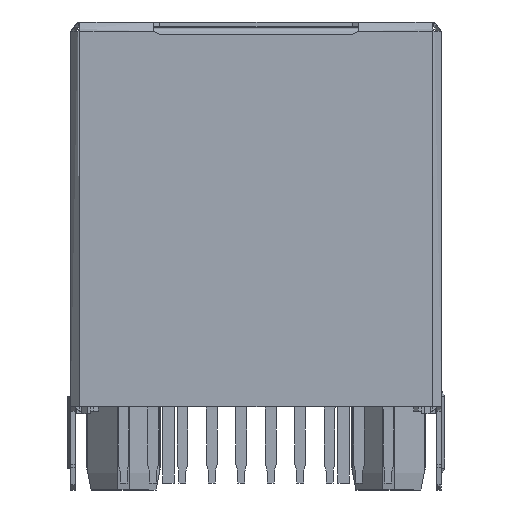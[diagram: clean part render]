
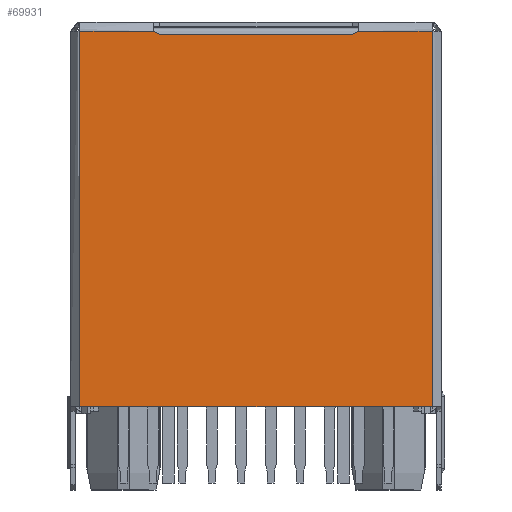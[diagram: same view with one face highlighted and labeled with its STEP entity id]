
A CAD part, front view. The second image highlights one B-rep face of the part: STEP entity #69931.
In plain terms, the highlighted planar face has unit normal (0, -1, 0).
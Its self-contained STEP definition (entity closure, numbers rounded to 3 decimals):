
#39 = CARTESIAN_POINT ( 'NONE',  ( 3.515, -0.29, -0.237 ) ) ;
#343 = CARTESIAN_POINT ( 'NONE',  ( 12.03, -0.29, -0.29 ) ) ;
#538 = DIRECTION ( 'NONE',  ( 0., 1., 0. ) ) ;
#1091 = LINE ( 'NONE', #7623, #14161 ) ;
#1361 = CARTESIAN_POINT ( 'NONE',  ( 3.73, -0.29, -0.29 ) ) ;
#1877 = CARTESIAN_POINT ( 'NONE',  ( 0.28, -0.29, -8.25 ) ) ;
#2699 = VECTOR ( 'NONE', #23103, 1000. ) ;
#2856 = LINE ( 'NONE', #40137, #60278 ) ;
#4474 = LINE ( 'NONE', #62009, #2699 ) ;
#5951 = CARTESIAN_POINT ( 'NONE',  ( 12.245, -0.29, -0.237 ) ) ;
#5967 = CARTESIAN_POINT ( 'NONE',  ( 7.88, -0.29, -0.29 ) ) ;
#6540 = EDGE_CURVE ( 'NONE', #58645, #33259, #32427, .T. ) ;
#6895 = ORIENTED_EDGE ( 'NONE', *, *, #30634, .F. ) ;
#7623 = CARTESIAN_POINT ( 'NONE',  ( 15.48, -0.29, -8.25 ) ) ;
#7898 = DIRECTION ( 'NONE',  ( 1., 0., 0. ) ) ;
#8404 = VECTOR ( 'NONE', #11526, 1000. ) ;
#9055 = EDGE_CURVE ( 'NONE', #20467, #38870, #14137, .T. ) ;
#11526 = DIRECTION ( 'NONE',  ( 1., 0., 0. ) ) ;
#14137 = LINE ( 'NONE', #1877, #27165 ) ;
#14161 = VECTOR ( 'NONE', #40648, 1000. ) ;
#14842 = CARTESIAN_POINT ( 'NONE',  ( 12.03, -0.29, -0.29 ) ) ;
#15519 = VERTEX_POINT ( 'NONE', #14842 ) ;
#17075 = CARTESIAN_POINT ( 'NONE',  ( 15.48, -0.29, -16.35 ) ) ;
#18659 = AXIS2_PLACEMENT_3D ( 'NONE', #33824, #538, #39389 ) ;
#20467 = VERTEX_POINT ( 'NONE', #68985 ) ;
#20975 = EDGE_CURVE ( 'NONE', #53257, #61605, #1091, .T. ) ;
#21890 = B_SPLINE_CURVE_WITH_KNOTS ( 'NONE', 3,
 ( #343, #39192, #5951, #44805 ),
 .UNSPECIFIED., .F., .F.,
 ( 4, 4 ),
 ( 0., 1. ),
 .UNSPECIFIED. ) ;
#23103 = DIRECTION ( 'NONE',  ( 1., 0., 0. ) ) ;
#23948 = CARTESIAN_POINT ( 'NONE',  ( 12.31, -0.29, -0.15 ) ) ;
#27165 = VECTOR ( 'NONE', #68501, 1000. ) ;
#27490 = FACE_OUTER_BOUND ( 'NONE', #52228, .T. ) ;
#28115 = ORIENTED_EDGE ( 'NONE', *, *, #33384, .F. ) ;
#30634 = EDGE_CURVE ( 'NONE', #33259, #15519, #54523, .T. ) ;
#32427 = B_SPLINE_CURVE_WITH_KNOTS ( 'NONE', 3,
 ( #44738, #39, #33569, #50353 ),
 .UNSPECIFIED., .F., .F.,
 ( 4, 4 ),
 ( 0., 1. ),
 .UNSPECIFIED. ) ;
#32632 = EDGE_CURVE ( 'NONE', #38870, #58645, #4474, .T. ) ;
#33259 = VERTEX_POINT ( 'NONE', #1361 ) ;
#33384 = EDGE_CURVE ( 'NONE', #38704, #53257, #56463, .T. ) ;
#33569 = CARTESIAN_POINT ( 'NONE',  ( 3.622, -0.29, -0.29 ) ) ;
#33824 = CARTESIAN_POINT ( 'NONE',  ( 7.88, -0.29, -8.25 ) ) ;
#35621 = CARTESIAN_POINT ( 'NONE',  ( 15.573, -0.29, -0.15 ) ) ;
#35660 = ORIENTED_EDGE ( 'NONE', *, *, #9055, .F. ) ;
#37532 = EDGE_CURVE ( 'NONE', #61605, #20467, #2856, .T. ) ;
#38643 = CARTESIAN_POINT ( 'NONE',  ( 3.45, -0.29, -0.15 ) ) ;
#38704 = VERTEX_POINT ( 'NONE', #23948 ) ;
#38870 = VERTEX_POINT ( 'NONE', #47494 ) ;
#39145 = PLANE ( 'NONE',  #18659 ) ;
#39159 = ORIENTED_EDGE ( 'NONE', *, *, #6540, .F. ) ;
#39192 = CARTESIAN_POINT ( 'NONE',  ( 12.138, -0.29, -0.29 ) ) ;
#39389 = DIRECTION ( 'NONE',  ( 0., 0., 1. ) ) ;
#39836 = VECTOR ( 'NONE', #7898, 1000. ) ;
#40137 = CARTESIAN_POINT ( 'NONE',  ( 7.88, -0.29, -16.35 ) ) ;
#40648 = DIRECTION ( 'NONE',  ( 0., 0., -1. ) ) ;
#41414 = ORIENTED_EDGE ( 'NONE', *, *, #37532, .F. ) ;
#44738 = CARTESIAN_POINT ( 'NONE',  ( 3.45, -0.29, -0.15 ) ) ;
#44805 = CARTESIAN_POINT ( 'NONE',  ( 12.31, -0.29, -0.15 ) ) ;
#45282 = ORIENTED_EDGE ( 'NONE', *, *, #20975, .F. ) ;
#46216 = DIRECTION ( 'NONE',  ( -1., 0., 0. ) ) ;
#47494 = CARTESIAN_POINT ( 'NONE',  ( 0.28, -0.29, -0.15 ) ) ;
#49939 = CARTESIAN_POINT ( 'NONE',  ( 15.48, -0.29, -0.15 ) ) ;
#50353 = CARTESIAN_POINT ( 'NONE',  ( 3.73, -0.29, -0.29 ) ) ;
#52228 = EDGE_LOOP ( 'NONE', ( #64038, #6895, #39159, #52548, #35660, #41414, #45282, #28115 ) ) ;
#52548 = ORIENTED_EDGE ( 'NONE', *, *, #32632, .F. ) ;
#53257 = VERTEX_POINT ( 'NONE', #49939 ) ;
#54523 = LINE ( 'NONE', #5967, #8404 ) ;
#54699 = EDGE_CURVE ( 'NONE', #15519, #38704, #21890, .T. ) ;
#56463 = LINE ( 'NONE', #35621, #39836 ) ;
#58645 = VERTEX_POINT ( 'NONE', #38643 ) ;
#60278 = VECTOR ( 'NONE', #46216, 1000. ) ;
#61605 = VERTEX_POINT ( 'NONE', #17075 ) ;
#62009 = CARTESIAN_POINT ( 'NONE',  ( 3.514, -0.29, -0.15 ) ) ;
#64038 = ORIENTED_EDGE ( 'NONE', *, *, #54699, .F. ) ;
#68501 = DIRECTION ( 'NONE',  ( 0., 0., 1. ) ) ;
#68985 = CARTESIAN_POINT ( 'NONE',  ( 0.28, -0.29, -16.35 ) ) ;
#69931 = ADVANCED_FACE ( 'NONE', ( #27490 ), #39145, .F. ) ;
